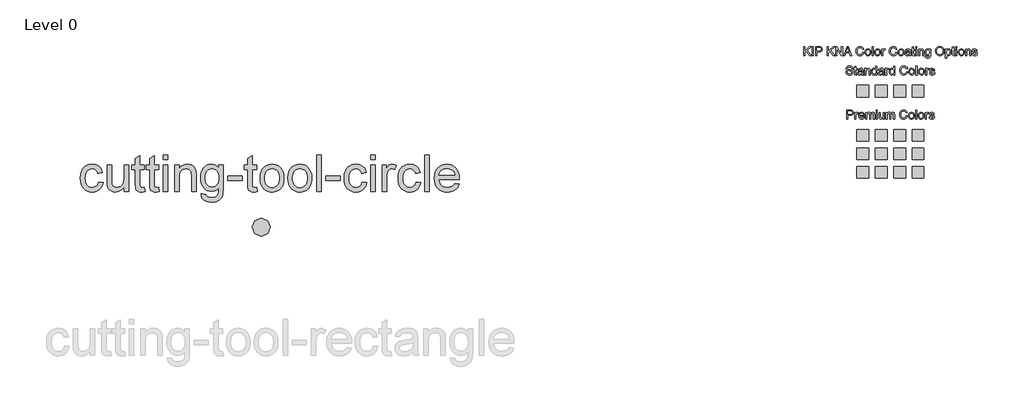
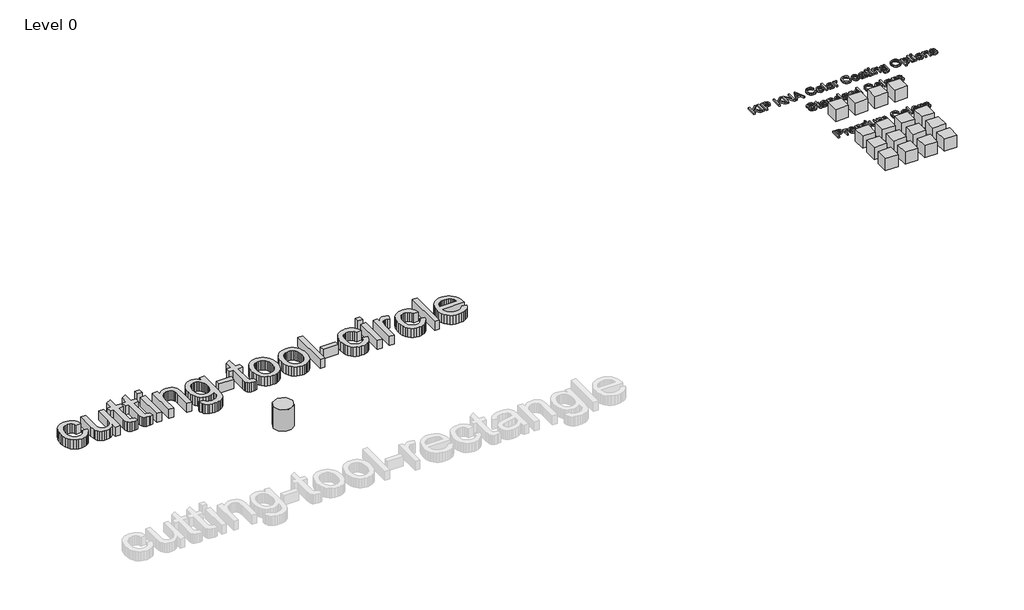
# One storey, part 2 of 2: 19 proxies.
"""IFC4 building model written with IfcOpenShell, lengths in millimetres."""

from ifc_helpers import new_model, si_unit, origin, origin_with_axes, place, context, project, spatial, polyline, outline, extrude, transform, mapped, element, save
from components import kna_colour_range_roof_only_kna_colour_range_roof_only_6b243e54, ks_colour_sample_ks_colour_sample_0243efec, kingspan_ks_cutting_tool_circle_cutting_tool_circle_f6fe257a

model = new_model("IFC4")

# Units and contexts
model_context = context("Model", 3, world=origin())
ifc_project = project(units=[si_unit("LENGTHUNIT", "METRE", prefix="MILLI")], contexts=[model_context])

# Site, building, storey
site = spatial("IfcSite", under=ifc_project)
building = spatial("IfcBuilding", under=site)
storey = spatial("IfcBuildingStorey", under=building, Name="Level 0", Elevation=0.0)

# Proxies
placement = place(None, origin())
element("IfcBuildingElementProxy", 1, Name="24\" Arial", ObjectType="24\" Arial", at=placement, inside=storey, context=model_context, shape_type="SweptSolid", body=[
    extrude(outline(polyline([(-64.298587, 13997.5338639), (11.8431866, 13988.0161422), (3.5616533, 13952.0876723), (-9.3857942, 13920.2953217), (-26.9991562, 13892.6390904), (-49.2784324, 13869.1189783), (-75.2848634, 13850.3484325), (-104.0796893, 13836.9408997), (-135.6629103, 13828.8963801), (-170.0345264, 13826.2148735), (-212.7387962, 13829.9559702), (-251.0281072, 13841.1792601), (-284.9024595, 13859.8847434), (-314.3618529, 13886.0724201), (-338.2072777, 13919.2496736), (-355.239724, 13958.9238875), (-365.4591918, 14005.0950618), (-368.865681, 14057.7631965), (-363.0472301, 14125.5211956), (-355.7741664, 14156.0122952), (-345.5918772, 14184.2447949), (-332.4306527, 14209.6517209), (-316.2207829, 14231.6660996), (-296.962268, 14250.2879311), (-274.6551077, 14265.5172152), (-250.3077718, 14277.3585995), (-224.9287298, 14285.816731), (-198.5179816, 14290.89161), (-171.0755272, 14292.5832363), (-137.2941214, 14290.2595738), (-106.7379593, 14283.2885862), (-79.4070407, 14271.6702736), (-55.3013657, 14255.4046359), (-34.8298989, 14234.8634593), (-18.4016048, 14210.4185295), (-6.0164836, 14182.0698468), (2.3254649, 14149.817411), (-73.8163087, 14140.2996893), (-87.6281587, 14173.5187687), (-109.135979, 14197.3316622), (-137.1500544, 14211.6640126), (-170.4806696, 14216.4414628), (-196.3523281, 14214.0899163), (-219.6865471, 14207.0352769), (-240.4833267, 14195.2775445), (-258.7426668, 14178.8167192), (-273.6094596, 14157.2717203), (-284.2285973, 14130.2614672), (-290.60008, 14097.7859598), (-292.7239075, 14059.8451981), (-290.6465532, 14021.3328155), (-284.4144903, 13988.4808747), (-274.0277189, 13961.2893759), (-259.4862388, 13939.758319), (-241.5893901, 13923.3950875), (-221.1365125, 13911.707065), (-198.1276063, 13904.6942515), (-172.5626712, 13902.356647), (-133.1347655, 13908.1936873), (-116.0837299, 13915.4899876), (-100.8079725, 13925.704808), (-87.7350472, 13938.9496844), (-77.2925078, 13955.3361525), (-69.4803544, 13974.8642124), (-64.298587, 13997.5338639)])), origin_with_axes(), (0.0, 0.0, 1.0), 152.4),
    extrude(outline(polyline([(363.9988891, 13835.7325952), (363.9988891, 13912.6179407), (336.4495462, 13874.8165988), (304.3644141, 13847.8156403), (267.7434928, 13831.6150652), (226.5867822, 13826.2148735), (189.5011283, 13830.0070907), (154.9807979, 13841.3837425), (126.0186682, 13858.4858986), (105.6076166, 13879.4546292), (91.8701238, 13904.9219704), (82.9286704, 13935.5199585), (78.4672384, 14006.3080136), (78.4672384, 14283.0655146), (154.6090119, 14283.0655146), (154.6090119, 14042.1481843), (155.7615485, 13993.9647183), (159.2191583, 13964.5192668), (170.3169705, 13938.6243717), (189.3338246, 13918.9383028), (215.0056482, 13906.502061), (246.0683688, 13902.356647), (278.9156622, 13906.5950075), (309.6437754, 13919.3100888), (334.9809915, 13939.3307651), (351.6555938, 13965.4859104), (360.9130652, 14001.3074919), (363.9988891, 14050.3274764), (363.9988891, 14283.0655146), (440.1406626, 14283.0655146), (440.1406626, 13835.7325952), (363.9988891, 13835.7325952)])), origin_with_axes(), (0.0, 0.0, 1.0), 152.4),
    extrude(outline(polyline([(706.6368699, 13899.2336446), (716.1545916, 13833.5018792), (686.0027467, 13828.0366249), (659.1969758, 13826.2148735), (622.6504117, 13829.3750545), (595.3984976, 13838.8555976), (576.1399827, 13853.4667876), (563.5736157, 13872.0189091), (556.6583961, 13903.8809696), (554.3533229, 13958.4219764), (554.3533229, 14206.9237411), (497.2469927, 14206.9237411), (497.2469927, 14283.0655146), (554.3533229, 14283.0655146), (554.3533229, 14391.775742), (630.4950964, 14436.5387769), (630.4950964, 14283.0655146), (706.6368699, 14283.0655146), (706.6368699, 14206.9237411), (630.4950964, 14206.9237411), (630.4950964, 13960.6526924), (634.5103852, 13921.3920904), (647.5228953, 13907.4872939), (658.5091717, 13903.6393087), (673.4735584, 13902.356647), (706.6368699, 13899.2336446)])), origin_with_axes(), (0.0, 0.0, 1.0), 152.4),
    extrude(outline(polyline([(944.5799121, 13899.2336446), (954.0976338, 13833.5018792), (923.9457889, 13828.0366249), (897.1400181, 13826.2148735), (860.5934539, 13829.3750545), (833.3415399, 13838.8555976), (814.0830249, 13853.4667876), (801.516658, 13872.0189091), (794.6014383, 13903.8809696), (792.2963651, 13958.4219764), (792.2963651, 14206.9237411), (735.190035, 14206.9237411), (735.190035, 14283.0655146), (792.2963651, 14283.0655146), (792.2963651, 14391.775742), (868.4381386, 14436.5387769), (868.4381386, 14283.0655146), (944.5799121, 14283.0655146), (944.5799121, 14206.9237411), (868.4381386, 14206.9237411), (868.4381386, 13960.6526924), (872.4534275, 13921.3920904), (885.4659376, 13907.4872939), (896.452214, 13903.6393087), (911.4166006, 13902.356647), (944.5799121, 13899.2336446)])), origin_with_axes(), (0.0, 0.0, 1.0), 152.4),
    extrude(outline(polyline([(1020.7216857, 14368.7250098), (1020.7216857, 14444.8667833), (1096.8634592, 14444.8667833), (1096.8634592, 14368.7250098), (1020.7216857, 14368.7250098)])), origin_with_axes(), (0.0, 0.0, 1.0), 152.4),
    extrude(outline(polyline([(1020.7216857, 13835.7325952), (1020.7216857, 14283.0655146), (1096.8634592, 14283.0655146), (1096.8634592, 13835.7325952), (1020.7216857, 13835.7325952)])), origin_with_axes(), (0.0, 0.0, 1.0), 152.4),
    extrude(outline(polyline([(1211.0761194, 13835.7325952), (1211.0761194, 14283.0655146), (1287.217893, 14283.0655146), (1287.217893, 14220.605466), (1313.6704671, 14252.0957405), (1345.4395811, 14274.5887937), (1382.525235, 14288.0846257), (1424.9274287, 14292.5832363), (1462.4592257, 14288.9583228), (1496.8308417, 14278.0835822), (1525.4955426, 14261.3160334), (1545.9065942, 14240.0126954), (1559.7556228, 14214.2293361), (1568.7342548, 14184.0217233), (1572.7495437, 14110.4080946), (1572.7495437, 13835.7325952), (1496.6077701, 13835.7325952), (1496.6077701, 14100.1468009), (1494.4142327, 14139.5189387), (1487.8336205, 14167.5144247), (1475.6948074, 14187.5722796), (1456.8266678, 14203.1315239), (1432.6419882, 14213.1139781), (1404.5535557, 14216.4414628), (1381.4331136, 14214.5732381), (1359.9578245, 14208.9685641), (1340.1276886, 14199.6274408), (1321.9427057, 14186.5498681), (1306.7506001, 14168.2487021), (1295.8990961, 14143.2367987), (1289.3881938, 14111.5141579), (1287.217893, 14073.0807798), (1287.217893, 13835.7325952), (1211.0761194, 13835.7325952)])), origin_with_axes(), (0.0, 0.0, 1.0), 152.4),
    extrude(outline(polyline([(1658.4090389, 13797.6617084), (1734.5508124, 13788.1439867), (1742.9531761, 13764.3496825), (1759.237403, 13747.9910984), (1791.2481779, 13735.2760171), (1833.1484605, 13731.0376566), (1877.8371381, 13735.8336961), (1895.8873486, 13741.8287454), (1911.0748068, 13750.2218144), (1934.1255391, 13773.2725466), (1948.2534072, 13804.0564277), (1952.3802318, 13836.8107746), (1953.4584112, 13892.8389253), (1928.1211951, 13867.8549059), (1899.8468695, 13850.0091777), (1868.6354345, 13839.3017408), (1834.4868901, 13835.7325952), (1792.7399692, 13839.8873038), (1755.9842755, 13852.3514296), (1724.2198088, 13873.1249725), (1697.4465692, 13902.2079326), (1676.2036465, 13937.1000491), (1661.0301302, 13975.3010609), (1651.9260204, 14016.8109682), (1648.8913172, 14061.6297709), (1654.3379821, 14123.1045866), (1670.677977, 14179.6346484), (1682.788906, 14205.1252263), (1697.3350334, 14227.539275), (1714.3163591, 14246.8767945), (1733.7328832, 14263.1377848), (1755.2732347, 14276.0201698), (1778.6260431, 14285.2218734), (1803.7913082, 14290.7428956), (1830.7690301, 14292.5832363), (1866.3768346, 14288.4192331), (1898.6943329, 14275.9272233), (1927.7215251, 14255.1072071), (1953.4584112, 14225.9591845), (1953.4584112, 14283.0655146), (2029.6001848, 14283.0655146), (2029.6001848, 13896.8542142), (2024.3951807, 13807.6813412), (2017.8889256, 13774.5133824), (2008.7801686, 13748.957742), (1996.8504852, 13728.3468554), (1981.8814512, 13710.0131581), (1963.8730667, 13693.9566501), (1942.8253315, 13680.1773313), (1918.9520228, 13669.1166977), (1892.4669174, 13661.2162452), (1863.3700153, 13656.4759736), (1831.6613165, 13654.8958831), (1794.3572384, 13657.1219518), (1760.8174935, 13663.8001579), (1731.042082, 13674.9305014), (1705.0310037, 13690.5129822), (1684.0204472, 13710.5661898), (1669.2466009, 13735.1087133), (1660.7094648, 13764.1405529), (1658.4090389, 13797.6617084)]), holes=[polyline([(1725.0330907, 14066.834775), (1727.0639717, 14029.1867948), (1733.1566149, 13996.9947742), (1743.3110201, 13970.2587132), (1757.5271874, 13948.9786119), (1774.8105892, 13932.7455055), (1794.166698, 13921.1504295), (1815.5955138, 13914.1933839), (1839.0970366, 13911.8743687), (1862.3661931, 13914.1794419), (1883.6927677, 13921.0946616), (1903.0767604, 13932.6200277), (1920.5181713, 13948.7555403), (1934.9295263, 13969.826512), (1945.2233513, 13996.1582557), (1951.3996462, 14027.7507714), (1953.4584112, 14064.604059), (1951.339231, 14099.919082), (1944.9816904, 14130.6146639), (1934.3857893, 14156.6908047), (1919.5515277, 14178.1475044), (1901.7336835, 14194.9011112), (1882.1870344, 14206.8679732), (1860.9115803, 14214.0480904), (1837.9073213, 14216.4414628), (1815.2887904, 14214.085269), (1794.4269482, 14207.0166876), (1775.321795, 14195.2357186), (1757.9733306, 14178.742362), (1743.5619756, 14157.6109751), (1733.2681507, 14131.9159149), (1727.0918557, 14101.6571815), (1725.0330907, 14066.834775)])]), origin_with_axes(), (0.0, 0.0, 1.0), 152.4),
    extrude(outline(polyline([(2105.7419583, 14016.5693073), (2105.7419583, 14092.7110808), (2343.6850005, 14092.7110808), (2343.6850005, 14016.5693073), (2105.7419583, 14016.5693073)])), origin_with_axes(), (0.0, 0.0, 1.0), 152.4),
    extrude(outline(polyline([(2591.1457644, 13899.2336446), (2600.6634861, 13833.5018792), (2570.5116412, 13828.0366249), (2543.7058704, 13826.2148735), (2507.1593063, 13829.3750545), (2479.9073922, 13838.8555976), (2460.6488772, 13853.4667876), (2448.0825103, 13872.0189091), (2441.1672906, 13903.8809696), (2438.8622174, 13958.4219764), (2438.8622174, 14206.9237411), (2381.7558873, 14206.9237411), (2381.7558873, 14283.0655146), (2438.8622174, 14283.0655146), (2438.8622174, 14391.775742), (2515.0039909, 14436.5387769), (2515.0039909, 14283.0655146), (2591.1457644, 14283.0655146), (2591.1457644, 14206.9237411), (2515.0039909, 14206.9237411), (2515.0039909, 13960.6526924), (2519.0192798, 13921.3920904), (2532.0317899, 13907.4872939), (2543.0180663, 13903.6393087), (2557.9824529, 13902.356647), (2591.1457644, 13899.2336446)])), origin_with_axes(), (0.0, 0.0, 1.0), 152.4),
    extrude(outline(polyline([(2648.2520946, 14059.3990549), (2652.3696246, 14117.3326089), (2664.7222145, 14167.2541745), (2685.3098645, 14209.1637518), (2714.1325744, 14243.0613406), (2743.150472, 14264.72717), (2775.1798362, 14280.2027624), (2810.220667, 14289.4881178), (2848.2729645, 14292.5832363), (2890.2801355, 14288.8142557), (2928.2627231, 14277.5073139), (2962.2207272, 14258.6624108), (2992.1541478, 14232.2795465), (3016.5851356, 14199.2510074), (3034.0358411, 14160.46908), (3044.5062644, 14115.9337641), (3047.9964055, 14065.6450598), (3046.4534936, 14024.8880191), (3041.8247579, 13988.7225356), (3034.1101983, 13957.1486093), (3023.3098149, 13930.1662401), (3009.5583801, 13906.859905), (2992.9906663, 13886.314081), (2973.6066736, 13868.528768), (2951.4064018, 13853.5039662), (2927.2542536, 13841.5649881), (2902.0146313, 13833.0371467), (2875.6875349, 13827.9204418), (2848.2729645, 13826.2148735), (2805.6523465, 13829.9699121), (2767.3165622, 13841.235028), (2733.2656116, 13860.0102212), (2703.4994947, 13886.2954917), (2679.3287571, 13919.6446962), (2662.0639446, 13959.6116916), (2651.7050571, 14006.1964778), (2648.2520946, 14059.3990549)]), holes=[polyline([(2724.3938681, 14059.5477693), (2726.5967002, 14022.6154772), (2733.2051964, 13990.6372336), (2744.2193567, 13963.6130384), (2759.6391812, 13941.5428918), (2778.3957851, 13924.3989097), (2799.4202836, 13912.1532082), (2822.7126767, 13904.8057873), (2848.2729645, 13902.356647), (2873.7031271, 13904.8197293), (2896.9025737, 13912.2089761), (2917.8713043, 13924.5243875), (2936.6093189, 13941.7659634), (2952.0291434, 13964.0545343), (2963.0433037, 13991.5109307), (2969.6518, 14024.1351525), (2971.854632, 14061.9271997), (2969.637858, 14097.6883659), (2962.9875358, 14128.8300911), (2951.9036656, 14155.3523751), (2936.3862473, 14177.255218), (2917.5785228, 14194.3992001), (2896.6237342, 14206.6449016), (2873.5218814, 14213.9923225), (2848.2729645, 14216.4414628), (2822.7126767, 14214.0016171), (2799.4202836, 14206.6820802), (2778.3957851, 14194.482852), (2759.6391812, 14177.4039324), (2744.2193567, 14155.3988483), (2733.2051964, 14128.4211265), (2726.5967002, 14096.4707668), (2724.3938681, 14059.5477693)])]), origin_with_axes(), (0.0, 0.0, 1.0), 152.4),
    extrude(outline(polyline([(3114.6204574, 14059.3990549), (3118.7379874, 14117.3326089), (3131.0905773, 14167.2541745), (3151.6782273, 14209.1637518), (3180.5009372, 14243.0613406), (3209.5188348, 14264.72717), (3241.548199, 14280.2027624), (3276.5890298, 14289.4881178), (3314.6413273, 14292.5832363), (3356.6484983, 14288.8142557), (3394.6310859, 14277.5073139), (3428.58909, 14258.6624108), (3458.5225106, 14232.2795465), (3482.9534984, 14199.2510074), (3500.4042039, 14160.46908), (3510.8746272, 14115.9337641), (3514.3647683, 14065.6450598), (3512.8218564, 14024.8880191), (3508.1931207, 13988.7225356), (3500.4785611, 13957.1486093), (3489.6781777, 13930.1662401), (3475.9267429, 13906.859905), (3459.3590291, 13886.314081), (3439.9750364, 13868.528768), (3417.7747646, 13853.5039662), (3393.6226164, 13841.5649881), (3368.3829941, 13833.0371467), (3342.0558977, 13827.9204418), (3314.6413273, 13826.2148735), (3272.0207093, 13829.9699121), (3233.684925, 13841.235028), (3199.6339744, 13860.0102212), (3169.8678575, 13886.2954917), (3145.6971199, 13919.6446962), (3128.4323074, 13959.6116916), (3118.0734199, 14006.1964778), (3114.6204574, 14059.3990549)]), holes=[polyline([(3190.7622309, 14059.5477693), (3192.965063, 14022.6154772), (3199.5735592, 13990.6372336), (3210.5877195, 13963.6130384), (3226.007544, 13941.5428918), (3244.7641479, 13924.3989097), (3265.7886464, 13912.1532082), (3289.0810395, 13904.8057873), (3314.6413273, 13902.356647), (3340.0714899, 13904.8197293), (3363.2709365, 13912.2089761), (3384.2396671, 13924.5243875), (3402.9776817, 13941.7659634), (3418.3975062, 13964.0545343), (3429.4116665, 13991.5109307), (3436.0201628, 14024.1351525), (3438.2229948, 14061.9271997), (3436.0062208, 14097.6883659), (3429.3558986, 14128.8300911), (3418.2720284, 14155.3523751), (3402.7546101, 14177.255218), (3383.9468856, 14194.3992001), (3362.992097, 14206.6449016), (3339.8902442, 14213.9923225), (3314.6413273, 14216.4414628), (3289.0810395, 14214.0016171), (3265.7886464, 14206.6820802), (3244.7641479, 14194.482852), (3226.007544, 14177.4039324), (3210.5877195, 14155.3988483), (3199.5735592, 14128.4211265), (3192.965063, 14096.4707668), (3190.7622309, 14059.5477693)])]), origin_with_axes(), (0.0, 0.0, 1.0), 152.4),
    extrude(outline(polyline([(3600.0242635, 13835.7325952), (3600.0242635, 14444.8667833), (3676.1660371, 14444.8667833), (3676.1660371, 13835.7325952), (3600.0242635, 13835.7325952)])), origin_with_axes(), (0.0, 0.0, 1.0), 152.4),
    extrude(outline(polyline([(3752.3078106, 14016.5693073), (3752.3078106, 14092.7110808), (3990.2508528, 14092.7110808), (3990.2508528, 14016.5693073), (3752.3078106, 14016.5693073)])), origin_with_axes(), (0.0, 0.0, 1.0), 152.4),
    extrude(outline(polyline([(4361.4419987, 13997.5338639), (4437.5837722, 13988.0161422), (4429.302239, 13952.0876723), (4416.3547914, 13920.2953217), (4398.7414295, 13892.6390904), (4376.4621533, 13869.1189783), (4350.4557223, 13850.3484325), (4321.6608963, 13836.9408997), (4290.0776753, 13828.8963801), (4255.7060593, 13826.2148735), (4213.0017895, 13829.9559702), (4174.7124785, 13841.1792601), (4140.8381262, 13859.8847434), (4111.3787328, 13886.0724201), (4087.533308, 13919.2496736), (4070.5008617, 13958.9238875), (4060.2813939, 14005.0950618), (4056.8749046, 14057.7631965), (4062.6933556, 14125.5211956), (4069.9664193, 14156.0122952), (4080.1487085, 14184.2447949), (4093.309933, 14209.6517209), (4109.5198027, 14231.6660996), (4128.7783177, 14250.2879311), (4151.0854779, 14265.5172152), (4175.4328138, 14277.3585995), (4200.8118559, 14285.816731), (4227.2226041, 14290.89161), (4254.6650585, 14292.5832363), (4288.4464643, 14290.2595738), (4319.0026264, 14283.2885862), (4346.333545, 14271.6702736), (4370.43922, 14255.4046359), (4390.9106868, 14234.8634593), (4407.3389808, 14210.4185295), (4419.7241021, 14182.0698468), (4428.0660505, 14149.817411), (4351.924277, 14140.2996893), (4338.112427, 14173.5187687), (4316.6046067, 14197.3316622), (4288.5905313, 14211.6640126), (4255.2599161, 14216.4414628), (4229.3882576, 14214.0899163), (4206.0540386, 14207.0352769), (4185.257259, 14195.2775445), (4166.9979189, 14178.8167192), (4152.1311261, 14157.2717203), (4141.5119883, 14130.2614672), (4135.1405057, 14097.7859598), (4133.0166782, 14059.8451981), (4135.0940325, 14021.3328155), (4141.3260953, 13988.4808747), (4151.7128668, 13961.2893759), (4166.2543469, 13939.758319), (4184.1511956, 13923.3950875), (4204.6040731, 13911.707065), (4227.6129794, 13904.6942515), (4253.1779145, 13902.356647), (4292.6058202, 13908.1936873), (4309.6568558, 13915.4899876), (4324.9326132, 13925.704808), (4338.0055385, 13938.9496844), (4348.4480779, 13955.3361525), (4356.2602313, 13974.8642124), (4361.4419987, 13997.5338639)])), origin_with_axes(), (0.0, 0.0, 1.0), 152.4),
    extrude(outline(polyline([(4504.2078241, 14368.7250098), (4504.2078241, 14444.8667833), (4580.3495976, 14444.8667833), (4580.3495976, 14368.7250098), (4504.2078241, 14368.7250098)])), origin_with_axes(), (0.0, 0.0, 1.0), 152.4),
    extrude(outline(polyline([(4504.2078241, 13835.7325952), (4504.2078241, 14283.0655146), (4580.3495976, 14283.0655146), (4580.3495976, 13835.7325952), (4504.2078241, 13835.7325952)])), origin_with_axes(), (0.0, 0.0, 1.0), 152.4),
    extrude(outline(polyline([(4694.5622579, 13835.7325952), (4694.5622579, 14283.0655146), (4761.1863097, 14283.0655146), (4761.1863097, 14216.887606), (4785.7985431, 14255.2559215), (4808.4774893, 14277.8605106), (4831.2307927, 14288.9025549), (4856.0660978, 14292.5832363), (4893.9882701, 14286.7090174), (4932.5053001, 14269.0863609), (4907.0751375, 14200.8264506), (4880.3065452, 14212.5377097), (4853.5379529, 14216.4414628), (4830.8032388, 14212.6864241), (4810.4851337, 14201.4213082), (4794.0707817, 14183.5012229), (4783.0473267, 14159.7812758), (4773.7898552, 14117.248957), (4770.7040314, 14070.8500638), (4770.7040314, 13835.7325952), (4694.5622579, 13835.7325952)])), origin_with_axes(), (0.0, 0.0, 1.0), 152.4),
    extrude(outline(polyline([(5265.6255592, 13997.5338639), (5341.7673327, 13988.0161422), (5333.4857995, 13952.0876723), (5320.5383519, 13920.2953217), (5302.92499, 13892.6390904), (5280.6457138, 13869.1189783), (5254.6392828, 13850.3484325), (5225.8444569, 13836.9408997), (5194.2612359, 13828.8963801), (5159.8896198, 13826.2148735), (5117.18535, 13829.9559702), (5078.896039, 13841.1792601), (5045.0216867, 13859.8847434), (5015.5622933, 13886.0724201), (4991.7168685, 13919.2496736), (4974.6844222, 13958.9238875), (4964.4649544, 14005.0950618), (4961.0584652, 14057.7631965), (4966.8769161, 14125.5211956), (4974.1499798, 14156.0122952), (4984.332269, 14184.2447949), (4997.4934935, 14209.6517209), (5013.7033633, 14231.6660996), (5032.9618782, 14250.2879311), (5055.2690384, 14265.5172152), (5079.6163744, 14277.3585995), (5104.9954164, 14285.816731), (5131.4061646, 14290.89161), (5158.848619, 14292.5832363), (5192.6300248, 14290.2595738), (5223.1861869, 14283.2885862), (5250.5171055, 14271.6702736), (5274.6227805, 14255.4046359), (5295.0942473, 14234.8634593), (5311.5225414, 14210.4185295), (5323.9076626, 14182.0698468), (5332.2496111, 14149.817411), (5256.1078375, 14140.2996893), (5242.2959875, 14173.5187687), (5220.7881672, 14197.3316622), (5192.7740918, 14211.6640126), (5159.4434766, 14216.4414628), (5133.5718181, 14214.0899163), (5110.2375991, 14207.0352769), (5089.4408195, 14195.2775445), (5071.1814794, 14178.8167192), (5056.3146866, 14157.2717203), (5045.6955489, 14130.2614672), (5039.3240662, 14097.7859598), (5037.2002387, 14059.8451981), (5039.277593, 14021.3328155), (5045.5096559, 13988.4808747), (5055.8964273, 13961.2893759), (5070.4379074, 13939.758319), (5088.3347561, 13923.3950875), (5108.7876337, 13911.707065), (5131.7965399, 13904.6942515), (5157.361475, 13902.356647), (5196.7893807, 13908.1936873), (5213.8404163, 13915.4899876), (5229.1161737, 13925.704808), (5242.189099, 13938.9496844), (5252.6316384, 13955.3361525), (5260.4437918, 13974.8642124), (5265.6255592, 13997.5338639)])), origin_with_axes(), (0.0, 0.0, 1.0), 152.4),
    extrude(outline(polyline([(5408.3913846, 13835.7325952), (5408.3913846, 14444.8667833), (5484.5331581, 14444.8667833), (5484.5331581, 13835.7325952), (5408.3913846, 13835.7325952)])), origin_with_axes(), (0.0, 0.0, 1.0), 152.4),
    extrude(outline(polyline([(5911.9383477, 13968.9806989), (5986.5929772, 13959.4629772), (5975.1466156, 13929.5620878), (5959.6942599, 13903.2117548), (5940.2359099, 13880.4119782), (5916.7715658, 13861.1627578), (5889.5428883, 13845.8730584), (5858.7915385, 13834.9518446), (5824.5175163, 13828.3991163), (5786.7208217, 13826.2148735), (5739.4761153, 13829.9838541), (5697.3806451, 13841.2907959), (5660.434411, 13860.135699), (5628.637413, 13886.5185633), (5603.0678307, 13919.7051114), (5584.8038432, 13958.9610661), (5573.8454508, 14004.2864272), (5570.1926533, 14055.6811949), (5573.8826294, 14108.8187094), (5584.9525576, 14155.6544512), (5603.4024381, 14196.1884202), (5629.2322707, 14230.4206165), (5660.9456168, 14257.6167627), (5697.0460377, 14277.0425814), (5737.5335335, 14288.6980726), (5782.4081041, 14292.5832363), (5825.8373566, 14288.7073672), (5865.1119006, 14277.07976), (5900.2317359, 14257.7004145), (5931.1968627, 14230.5693309), (5956.4736636, 14196.4114918), (5974.5285214, 14155.95188), (5985.3614361, 14109.1904954), (5988.9724076, 14056.1273381), (5988.5262644, 14035.6047507), (5646.3344268, 14035.6047507), (5650.7447383, 14005.2205395), (5659.5142406, 13978.6099563), (5672.6429339, 13955.7730011), (5690.130818, 13936.7096737), (5711.0112495, 13921.6802246), (5734.3175845, 13910.9449037), (5760.0498233, 13904.5037112), (5788.2079658, 13902.356647), (5828.7326401, 13906.3347573), (5862.8625953, 13918.269088), (5890.5978311, 13938.9032112), (5911.9383477, 13968.9806989)]), holes=[polyline([(5646.3344268, 14111.7465242), (5912.8306341, 14111.7465242), (5902.5321618, 14151.9737698), (5893.6743603, 14167.7932642), (5882.3441818, 14180.7500064), (5861.5799335, 14196.3650186), (5837.952933, 14207.5185987), (5811.4631803, 14214.2107468), (5782.1106753, 14216.4414628), (5755.3374357, 14214.6615373), (5730.7856175, 14209.3217608), (5708.4552207, 14200.4221334), (5688.3462452, 14187.9626549), (5671.471808, 14172.5195938), (5658.8450258, 14154.6692183), (5650.4658988, 14134.4115284), (5646.3344268, 14111.7465242)])]), origin_with_axes(), (0.0, 0.0, 1.0), 152.4),
])
kna_colour_range_roof_only_kna_colour_range_roof_only_shape = kna_colour_range_roof_only_kna_colour_range_roof_only_6b243e54(model_context)
element("IfcBuildingElementProxy", 2, Name="KNA_Colour Range - Roof Only : KNA_Colour Range - Roof Only", ObjectType="KNA_Colour Range - Roof Only : KNA_Colour Range - Roof Only", at=placement, inside=storey, context=model_context, shape_type="MappedRepresentation", body=[
    mapped(kna_colour_range_roof_only_kna_colour_range_roof_only_shape, transform((13221.5853815, 13539.2290821, 0.0), x_axis=(1.0, 0.0, 0.0), y_axis=(0.0, 1.0, 0.0), z_axis=(0.0, 0.0, 1.0))),
])
ks_colour_sample_ks_colour_sample_shape = ks_colour_sample_ks_colour_sample_0243efec(model_context)
element("IfcBuildingElementProxy", 3, Name="KS_Colour Sample : KS_Colour Sample", ObjectType="KS_Colour Sample : KS_Colour Sample", at=placement, inside=storey, context=model_context, shape_type="MappedRepresentation", body=[
    mapped(ks_colour_sample_ks_colour_sample_shape, transform((12756.5853815, 15517.7096271, 0.0), x_axis=(1.0, 0.0, 0.0), y_axis=(0.0, 1.0, 0.0), z_axis=(0.0, 0.0, 1.0))),
])
element("IfcBuildingElementProxy", 4, Name="KS_Colour Sample : KS_Colour Sample", ObjectType="KS_Colour Sample : KS_Colour Sample", at=placement, inside=storey, context=model_context, shape_type="MappedRepresentation", body=[
    mapped(ks_colour_sample_ks_colour_sample_shape, transform((13066.5853815, 15517.7096271, 0.0), x_axis=(1.0, 0.0, 0.0), y_axis=(0.0, 1.0, 0.0), z_axis=(0.0, 0.0, 1.0))),
])
element("IfcBuildingElementProxy", 5, Name="KS_Colour Sample : KS_Colour Sample", ObjectType="KS_Colour Sample : KS_Colour Sample", at=placement, inside=storey, context=model_context, shape_type="MappedRepresentation", body=[
    mapped(ks_colour_sample_ks_colour_sample_shape, transform((13376.5853815, 15517.7096271, 0.0), x_axis=(1.0, 0.0, 0.0), y_axis=(0.0, 1.0, 0.0), z_axis=(0.0, 0.0, 1.0))),
])
element("IfcBuildingElementProxy", 6, Name="KS_Colour Sample : KS_Colour Sample", ObjectType="KS_Colour Sample : KS_Colour Sample", at=placement, inside=storey, context=model_context, shape_type="MappedRepresentation", body=[
    mapped(ks_colour_sample_ks_colour_sample_shape, transform((13686.5853815, 15517.7096271, 0.0), x_axis=(1.0, 0.0, 0.0), y_axis=(0.0, 1.0, 0.0), z_axis=(0.0, 0.0, 1.0))),
])
element("IfcBuildingElementProxy", 7, Name="KS_Colour Sample : KS_Colour Sample", ObjectType="KS_Colour Sample : KS_Colour Sample", at=placement, inside=storey, context=model_context, shape_type="MappedRepresentation", body=[
    mapped(ks_colour_sample_ks_colour_sample_shape, transform((12756.5853815, 14777.7096271, 0.0), x_axis=(1.0, 0.0, 0.0), y_axis=(0.0, 1.0, 0.0), z_axis=(0.0, 0.0, 1.0))),
])
element("IfcBuildingElementProxy", 8, Name="KS_Colour Sample : KS_Colour Sample", ObjectType="KS_Colour Sample : KS_Colour Sample", at=placement, inside=storey, context=model_context, shape_type="MappedRepresentation", body=[
    mapped(ks_colour_sample_ks_colour_sample_shape, transform((13066.5853815, 14777.7096271, 0.0), x_axis=(1.0, 0.0, 0.0), y_axis=(0.0, 1.0, 0.0), z_axis=(0.0, 0.0, 1.0))),
])
element("IfcBuildingElementProxy", 9, Name="KS_Colour Sample : KS_Colour Sample", ObjectType="KS_Colour Sample : KS_Colour Sample", at=placement, inside=storey, context=model_context, shape_type="MappedRepresentation", body=[
    mapped(ks_colour_sample_ks_colour_sample_shape, transform((13376.5853815, 14777.7096271, 0.0), x_axis=(1.0, 0.0, 0.0), y_axis=(0.0, 1.0, 0.0), z_axis=(0.0, 0.0, 1.0))),
])
element("IfcBuildingElementProxy", 10, Name="KS_Colour Sample : KS_Colour Sample", ObjectType="KS_Colour Sample : KS_Colour Sample", at=placement, inside=storey, context=model_context, shape_type="MappedRepresentation", body=[
    mapped(ks_colour_sample_ks_colour_sample_shape, transform((13686.5853815, 14777.7096271, 0.0), x_axis=(1.0, 0.0, 0.0), y_axis=(0.0, 1.0, 0.0), z_axis=(0.0, 0.0, 1.0))),
])
element("IfcBuildingElementProxy", 11, Name="KS_Colour Sample : KS_Colour Sample", ObjectType="KS_Colour Sample : KS_Colour Sample", at=placement, inside=storey, context=model_context, shape_type="MappedRepresentation", body=[
    mapped(ks_colour_sample_ks_colour_sample_shape, transform((12756.5853815, 14467.7096271, 0.0), x_axis=(1.0, 0.0, 0.0), y_axis=(0.0, 1.0, 0.0), z_axis=(0.0, 0.0, 1.0))),
])
element("IfcBuildingElementProxy", 12, Name="KS_Colour Sample : KS_Colour Sample", ObjectType="KS_Colour Sample : KS_Colour Sample", at=placement, inside=storey, context=model_context, shape_type="MappedRepresentation", body=[
    mapped(ks_colour_sample_ks_colour_sample_shape, transform((13066.5853815, 14467.7096271, 0.0), x_axis=(1.0, 0.0, 0.0), y_axis=(0.0, 1.0, 0.0), z_axis=(0.0, 0.0, 1.0))),
])
element("IfcBuildingElementProxy", 13, Name="KS_Colour Sample : KS_Colour Sample", ObjectType="KS_Colour Sample : KS_Colour Sample", at=placement, inside=storey, context=model_context, shape_type="MappedRepresentation", body=[
    mapped(ks_colour_sample_ks_colour_sample_shape, transform((13376.5853815, 14467.7096271, 0.0), x_axis=(1.0, 0.0, 0.0), y_axis=(0.0, 1.0, 0.0), z_axis=(0.0, 0.0, 1.0))),
])
element("IfcBuildingElementProxy", 14, Name="KS_Colour Sample : KS_Colour Sample", ObjectType="KS_Colour Sample : KS_Colour Sample", at=placement, inside=storey, context=model_context, shape_type="MappedRepresentation", body=[
    mapped(ks_colour_sample_ks_colour_sample_shape, transform((13686.5853815, 14467.7096271, 0.0), x_axis=(1.0, 0.0, 0.0), y_axis=(0.0, 1.0, 0.0), z_axis=(0.0, 0.0, 1.0))),
])
element("IfcBuildingElementProxy", 15, Name="KS_Colour Sample : KS_Colour Sample", ObjectType="KS_Colour Sample : KS_Colour Sample", at=placement, inside=storey, context=model_context, shape_type="MappedRepresentation", body=[
    mapped(ks_colour_sample_ks_colour_sample_shape, transform((12756.5853815, 14157.7096271, 0.0), x_axis=(1.0, 0.0, 0.0), y_axis=(0.0, 1.0, 0.0), z_axis=(0.0, 0.0, 1.0))),
])
element("IfcBuildingElementProxy", 16, Name="KS_Colour Sample : KS_Colour Sample", ObjectType="KS_Colour Sample : KS_Colour Sample", at=placement, inside=storey, context=model_context, shape_type="MappedRepresentation", body=[
    mapped(ks_colour_sample_ks_colour_sample_shape, transform((13066.5853815, 14157.7096271, 0.0), x_axis=(1.0, 0.0, 0.0), y_axis=(0.0, 1.0, 0.0), z_axis=(0.0, 0.0, 1.0))),
])
element("IfcBuildingElementProxy", 17, Name="KS_Colour Sample : KS_Colour Sample", ObjectType="KS_Colour Sample : KS_Colour Sample", at=placement, inside=storey, context=model_context, shape_type="MappedRepresentation", body=[
    mapped(ks_colour_sample_ks_colour_sample_shape, transform((13376.5853815, 14157.7096271, 0.0), x_axis=(1.0, 0.0, 0.0), y_axis=(0.0, 1.0, 0.0), z_axis=(0.0, 0.0, 1.0))),
])
element("IfcBuildingElementProxy", 18, Name="KS_Colour Sample : KS_Colour Sample", ObjectType="KS_Colour Sample : KS_Colour Sample", at=placement, inside=storey, context=model_context, shape_type="MappedRepresentation", body=[
    mapped(ks_colour_sample_ks_colour_sample_shape, transform((13686.5853815, 14157.7096271, 0.0), x_axis=(1.0, 0.0, 0.0), y_axis=(0.0, 1.0, 0.0), z_axis=(0.0, 0.0, 1.0))),
])
kingspan_ks_cutting_tool_circle_cutting_tool_circle_shape = kingspan_ks_cutting_tool_circle_cutting_tool_circle_f6fe257a(model_context)
element("IfcBuildingElementProxy", 19, Name="kingspan-ks-cutting-tool-circle : cutting-tool-circle", ObjectType="kingspan-ks-cutting-tool-circle : cutting-tool-circle", at=placement, inside=storey, context=model_context, shape_type="MappedRepresentation", body=[
    mapped(kingspan_ks_cutting_tool_circle_cutting_tool_circle_shape, transform((2666.4894313, 13235.1674002, 0.0), x_axis=(1.0, 0.0, 0.0), y_axis=(0.0, 1.0, 0.0), z_axis=(0.0, 0.0, 1.0))),
])

save(model, "model.ifc")
